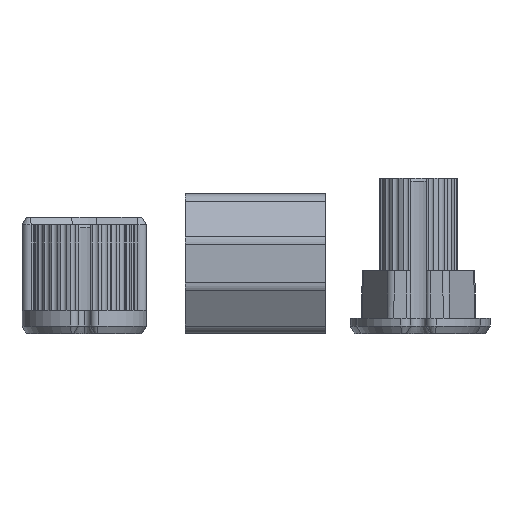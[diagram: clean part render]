
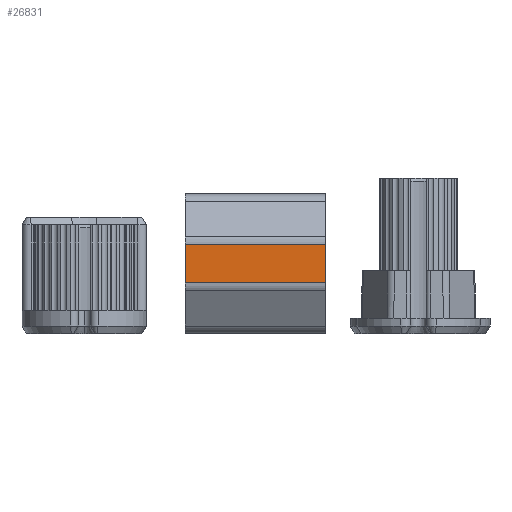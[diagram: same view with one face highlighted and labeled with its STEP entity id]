
A CAD part, front view. The second image highlights one B-rep face of the part: STEP entity #26831.
In plain terms, the highlighted planar face has unit normal (0, -1, 0).
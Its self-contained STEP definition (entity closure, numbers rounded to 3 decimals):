
#1283 = ORIENTED_EDGE ( 'NONE', *, *, #27238, .F. ) ;
#1966 = VECTOR ( 'NONE', #23572, 1000. ) ;
#3204 = VECTOR ( 'NONE', #9314, 1000. ) ;
#8807 = CARTESIAN_POINT ( 'NONE',  ( -9., -25., 6.536 ) ) ;
#9314 = DIRECTION ( 'NONE',  ( 0., 0., 1. ) ) ;
#13675 = ORIENTED_EDGE ( 'NONE', *, *, #27932, .T. ) ;
#15389 = VERTEX_POINT ( 'NONE', #35541 ) ;
#15750 = CARTESIAN_POINT ( 'NONE',  ( 21.728, -25., 0. ) ) ;
#16193 = LINE ( 'NONE', #19299, #42195 ) ;
#16289 = CARTESIAN_POINT ( 'NONE',  ( -9., -25., 11.464 ) ) ;
#16323 = CARTESIAN_POINT ( 'NONE',  ( 21.728, -25., 6.536 ) ) ;
#16364 = EDGE_LOOP ( 'NONE', ( #43760, #13675, #1283, #38046 ) ) ;
#17797 = EDGE_CURVE ( 'NONE', #26324, #15389, #29700, .T. ) ;
#19299 = CARTESIAN_POINT ( 'NONE',  ( 21.728, -25., 11.464 ) ) ;
#19713 = DIRECTION ( 'NONE',  ( 0., -1., 0. ) ) ;
#23448 = DIRECTION ( 'NONE',  ( -1., 0., 0. ) ) ;
#23572 = DIRECTION ( 'NONE',  ( 1., 0., 0. ) ) ;
#24791 = VECTOR ( 'NONE', #36643, 1000. ) ;
#26124 = VERTEX_POINT ( 'NONE', #16289 ) ;
#26324 = VERTEX_POINT ( 'NONE', #39415 ) ;
#26444 = AXIS2_PLACEMENT_3D ( 'NONE', #15750, #19713, #37093 ) ;
#26831 = ADVANCED_FACE ( 'NONE', ( #36452 ), #39577, .T. ) ;
#27238 = EDGE_CURVE ( 'NONE', #33920, #26124, #36618, .T. ) ;
#27932 = EDGE_CURVE ( 'NONE', #26324, #26124, #16193, .T. ) ;
#29700 = LINE ( 'NONE', #42861, #24791 ) ;
#29954 = EDGE_CURVE ( 'NONE', #33920, #15389, #33641, .T. ) ;
#33641 = LINE ( 'NONE', #16323, #1966 ) ;
#33920 = VERTEX_POINT ( 'NONE', #8807 ) ;
#35541 = CARTESIAN_POINT ( 'NONE',  ( 9., -25., 6.536 ) ) ;
#36452 = FACE_OUTER_BOUND ( 'NONE', #16364, .T. ) ;
#36618 = LINE ( 'NONE', #43049, #3204 ) ;
#36643 = DIRECTION ( 'NONE',  ( 0., 0., -1. ) ) ;
#37093 = DIRECTION ( 'NONE',  ( 0., 0., -1. ) ) ;
#38046 = ORIENTED_EDGE ( 'NONE', *, *, #29954, .T. ) ;
#39415 = CARTESIAN_POINT ( 'NONE',  ( 9., -25., 11.464 ) ) ;
#39577 = PLANE ( 'NONE',  #26444 ) ;
#42195 = VECTOR ( 'NONE', #23448, 1000. ) ;
#42861 = CARTESIAN_POINT ( 'NONE',  ( 9., -25., 0. ) ) ;
#43049 = CARTESIAN_POINT ( 'NONE',  ( -9., -25., 0. ) ) ;
#43760 = ORIENTED_EDGE ( 'NONE', *, *, #17797, .F. ) ;
